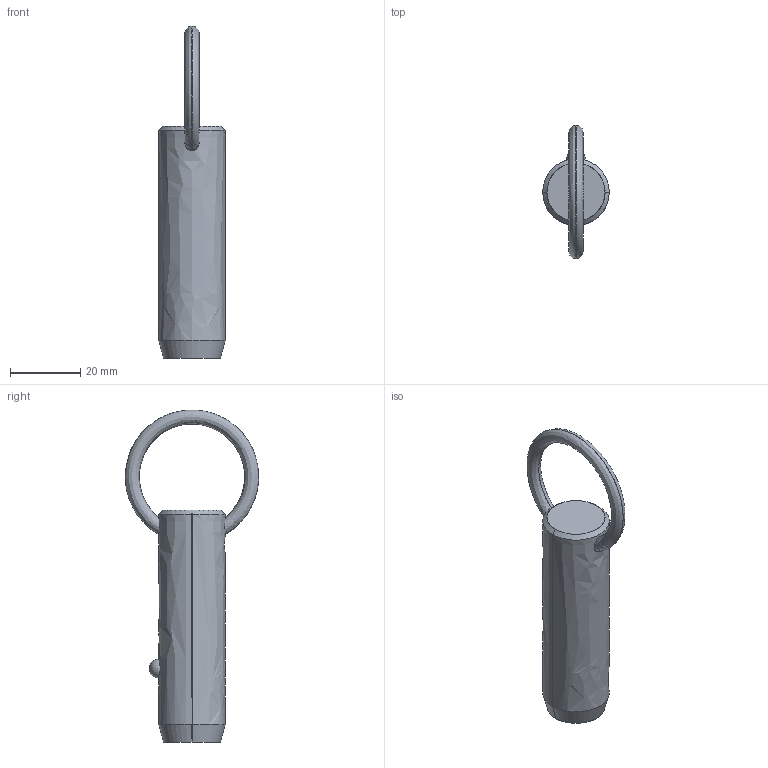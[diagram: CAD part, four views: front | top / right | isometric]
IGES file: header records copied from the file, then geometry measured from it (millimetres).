
Start section: SolidWorks IGES file using analytic representation for surfaces
Global section: file name: C:\Users\liam_\OneDrive\Documents\WORK\Work for WixRoyd\Job Files\J-00019 - Matt Davis CAD Checking\04. CAD Drawings\automotion20190605\P1250.2_v2\P1250.2_v2_20190729_IGES\P1250.075-130.igs; native system: SolidWorks 2017; preprocessor: SolidWorks 2017; author: liam_; date: 190729.234720; units: millimetre
Bounding box: 19 x 38.1 x 94.79 mm (x, y, z)
Surface area: 5484.3 mm2 (no closed solid volume)
Topology: 0 solids, 0 shells, 12 faces, 294 edges, 292 vertices
Faces by surface type: revolution 8, bspline 4
